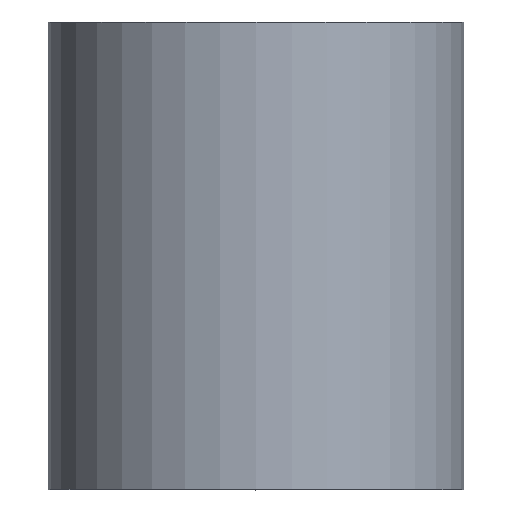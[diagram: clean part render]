
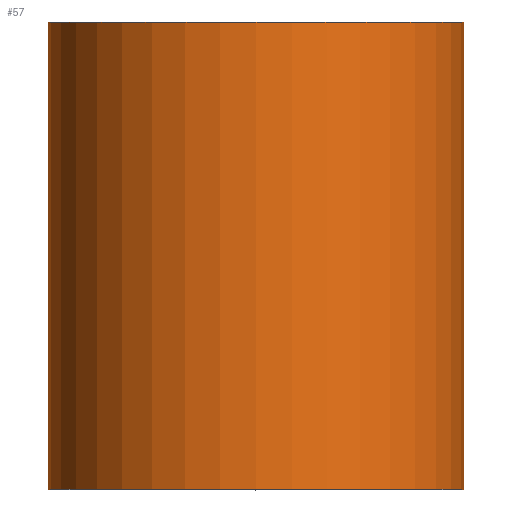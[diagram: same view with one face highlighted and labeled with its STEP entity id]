
A CAD part, top view. The second image highlights one B-rep face of the part: STEP entity #57.
In plain terms, the highlighted cylindrical face has radius 22.225 mm (diameter 44.45 mm), a full revolution.
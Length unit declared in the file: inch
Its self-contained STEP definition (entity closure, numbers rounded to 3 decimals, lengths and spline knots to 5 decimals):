
#19=FACE_BOUND('',#30,.T.);
#23=FACE_OUTER_BOUND('',#29,.T.);
#29=EDGE_LOOP('',(#49));
#30=EDGE_LOOP('',(#50));
#35=CIRCLE('',#65,0.875);
#36=CIRCLE('',#67,0.875);
#39=VERTEX_POINT('',#94);
#40=VERTEX_POINT('',#97);
#43=EDGE_CURVE('',#39,#39,#35,.T.);
#44=EDGE_CURVE('',#40,#40,#36,.T.);
#49=ORIENTED_EDGE('',*,*,#43,.F.);
#50=ORIENTED_EDGE('',*,*,#44,.F.);
#54=CYLINDRICAL_SURFACE('',#66,0.875);
#57=ADVANCED_FACE('',(#23,#19),#54,.T.);
#65=AXIS2_PLACEMENT_3D('',#95,#79,#80);
#66=AXIS2_PLACEMENT_3D('',#96,#81,#82);
#67=AXIS2_PLACEMENT_3D('',#98,#83,#84);
#79=DIRECTION('center_axis',(0.,-1.,0.));
#80=DIRECTION('ref_axis',(1.,0.,0.));
#81=DIRECTION('center_axis',(0.,1.,0.));
#82=DIRECTION('ref_axis',(1.,0.,0.));
#83=DIRECTION('center_axis',(0.,1.,0.));
#84=DIRECTION('ref_axis',(1.,0.,0.));
#94=CARTESIAN_POINT('',(-0.875,-0.98425,0.));
#95=CARTESIAN_POINT('Origin',(0.,-0.98425,0.));
#96=CARTESIAN_POINT('Origin',(0.,0.,0.));
#97=CARTESIAN_POINT('',(-0.875,0.98425,0.));
#98=CARTESIAN_POINT('Origin',(0.,0.98425,0.));
